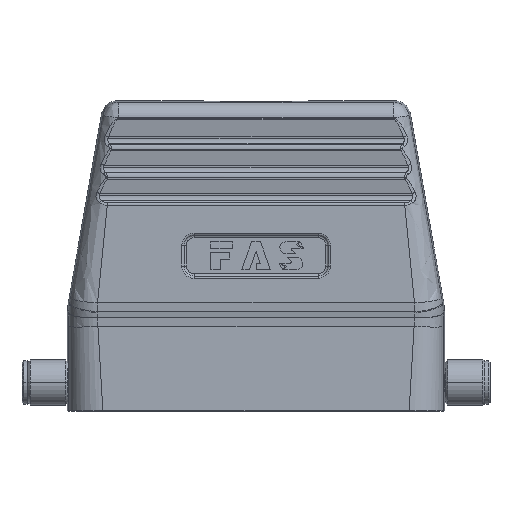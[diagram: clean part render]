
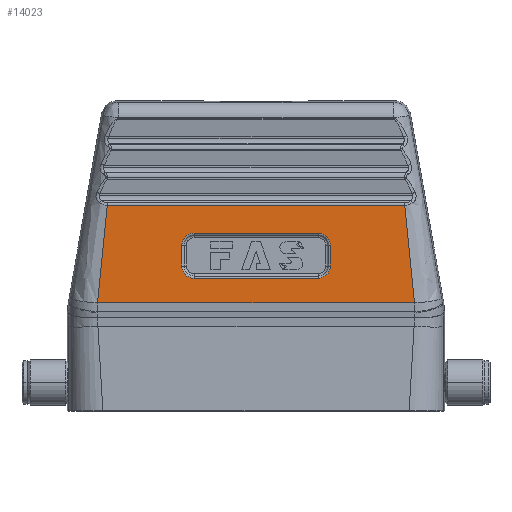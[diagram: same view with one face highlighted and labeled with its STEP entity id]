
A CAD part, top view. The second image highlights one B-rep face of the part: STEP entity #14023.
In plain terms, the highlighted planar face has unit normal (0, 0, 1) as drawn and (0, -1, 0) by its records, which use the part's own axes.
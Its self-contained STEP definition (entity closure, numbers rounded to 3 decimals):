
#78 = ORIENTED_EDGE ( 'NONE', *, *, #18352, .F. ) ;
#363 = EDGE_CURVE ( 'NONE', #14371, #16832, #20846, .T. ) ;
#858 = VERTEX_POINT ( 'NONE', #13149 ) ;
#996 = B_SPLINE_CURVE_WITH_KNOTS ( 'NONE', 3,
 ( #11770, #11935, #12096, #6486, #6565, #17710 ),
 .UNSPECIFIED., .F., .F.,
 ( 4, 2, 4 ),
 ( 0., 0.5, 1. ),
 .UNSPECIFIED. ) ;
#2199 = CARTESIAN_POINT ( 'NONE',  ( 14.366, -22., 32. ) ) ;
#2889 = CARTESIAN_POINT ( 'NONE',  ( -30.672, -22., 20.875 ) ) ;
#3559 = CARTESIAN_POINT ( 'NONE',  ( -14.366, -22., 28. ) ) ;
#3957 = CARTESIAN_POINT ( 'NONE',  ( 29.597, -22., 33.477 ) ) ;
#4145 = ORIENTED_EDGE ( 'NONE', *, *, #13574, .F. ) ;
#4329 = VECTOR ( 'NONE', #22124, 1000. ) ;
#4762 = VERTEX_POINT ( 'NONE', #2889 ) ;
#5032 =( BOUNDED_CURVE ( )  B_SPLINE_CURVE ( 3, ( #8667, #5058, #8893, #18097 ),
 .UNSPECIFIED., .F., .F. ) 
 B_SPLINE_CURVE_WITH_KNOTS ( ( 4, 4 ),
 ( 0., 1. ),
 .UNSPECIFIED. ) 
 CURVE ( )  GEOMETRIC_REPRESENTATION_ITEM ( )  RATIONAL_B_SPLINE_CURVE ( ( 1., 0.805, 0.805, 1. ) ) 
 REPRESENTATION_ITEM ( '' )  );
#5058 = CARTESIAN_POINT ( 'NONE',  ( 14.366, -22., 33.386 ) ) ;
#5383 = CARTESIAN_POINT ( 'NONE',  ( -23.5, -22., 25.634 ) ) ;
#5434 = EDGE_CURVE ( 'NONE', #4762, #14371, #996, .T. ) ;
#5544 = EDGE_CURVE ( 'NONE', #15737, #858, #17168, .T. ) ;
#5915 = EDGE_CURVE ( 'NONE', #19740, #19459, #20101, .T. ) ;
#5939 = CARTESIAN_POINT ( 'NONE',  ( -13.386, -22., 34.366 ) ) ;
#5940 = VERTEX_POINT ( 'NONE', #14888 ) ;
#6150 = DIRECTION ( 'NONE',  ( 1., 0., 0. ) ) ;
#6486 = CARTESIAN_POINT ( 'NONE',  ( -29.596, -22., 33.477 ) ) ;
#6565 = CARTESIAN_POINT ( 'NONE',  ( -29.207, -22., 36.619 ) ) ;
#6937 = VERTEX_POINT ( 'NONE', #12149 ) ;
#7325 = AXIS2_PLACEMENT_3D ( 'NONE', #7953, #11688, #17544 ) ;
#7917 = CARTESIAN_POINT ( 'NONE',  ( -14.366, -22., 28. ) ) ;
#7953 = CARTESIAN_POINT ( 'NONE',  ( -23.5, -22., 0. ) ) ;
#7999 = EDGE_CURVE ( 'NONE', #6937, #19740, #12653, .T. ) ;
#8354 = EDGE_CURVE ( 'NONE', #858, #14619, #23702, .T. ) ;
#8399 = VERTEX_POINT ( 'NONE', #23679 ) ;
#8667 = CARTESIAN_POINT ( 'NONE',  ( 14.366, -22., 32. ) ) ;
#8674 = CARTESIAN_POINT ( 'NONE',  ( 14.366, -22., 26.614 ) ) ;
#8711 = FACE_OUTER_BOUND ( 'NONE', #10230, .T. ) ;
#8762 = EDGE_LOOP ( 'NONE', ( #16811, #18497, #22088, #12193, #78, #16872, #16029, #18455 ) ) ;
#8857 = CARTESIAN_POINT ( 'NONE',  ( 28.792, -22., 39.758 ) ) ;
#8876 = DIRECTION ( 'NONE',  ( 0., 0., 1. ) ) ;
#8893 = CARTESIAN_POINT ( 'NONE',  ( 13.386, -22., 34.366 ) ) ;
#8904 =( BOUNDED_CURVE ( )  B_SPLINE_CURVE ( 3, ( #20736, #5939, #21210, #19341 ),
 .UNSPECIFIED., .F., .T. ) 
 B_SPLINE_CURVE_WITH_KNOTS ( ( 4, 4 ),
 ( 0., 1. ),
 .UNSPECIFIED. ) 
 CURVE ( )  GEOMETRIC_REPRESENTATION_ITEM ( )  RATIONAL_B_SPLINE_CURVE ( ( 1., 0.805, 0.805, 1. ) ) 
 REPRESENTATION_ITEM ( '' )  );
#9190 = CARTESIAN_POINT ( 'NONE',  ( -14.366, -22., 26.614 ) ) ;
#10230 = EDGE_LOOP ( 'NONE', ( #22858, #4145, #21817, #13707 ) ) ;
#10313 = EDGE_CURVE ( 'NONE', #14619, #8399, #5032, .T. ) ;
#10399 = VECTOR ( 'NONE', #10972, 1000. ) ;
#10474 = LINE ( 'NONE', #5383, #4329 ) ;
#10615 = CARTESIAN_POINT ( 'NONE',  ( 12., -22., 25.634 ) ) ;
#10972 = DIRECTION ( 'NONE',  ( -1., 0., 0. ) ) ;
#11064 = CARTESIAN_POINT ( 'NONE',  ( -13.386, -22., 25.634 ) ) ;
#11491 = VECTOR ( 'NONE', #8876, 1000. ) ;
#11688 = DIRECTION ( 'NONE',  ( 0., 1., 0. ) ) ;
#11770 = CARTESIAN_POINT ( 'NONE',  ( -30.672, -22., 20.875 ) ) ;
#11935 = CARTESIAN_POINT ( 'NONE',  ( -30.509, -22., 24.029 ) ) ;
#12096 = CARTESIAN_POINT ( 'NONE',  ( -30.248, -22., 27.183 ) ) ;
#12149 = CARTESIAN_POINT ( 'NONE',  ( -14.366, -22., 32. ) ) ;
#12193 = ORIENTED_EDGE ( 'NONE', *, *, #21417, .F. ) ;
#12653 = LINE ( 'NONE', #20770, #15267 ) ;
#13024 = CARTESIAN_POINT ( 'NONE',  ( -12., -22., 25.634 ) ) ;
#13149 = CARTESIAN_POINT ( 'NONE',  ( 14.366, -22., 28. ) ) ;
#13174 = CARTESIAN_POINT ( 'NONE',  ( 29.208, -22., 36.619 ) ) ;
#13574 = EDGE_CURVE ( 'NONE', #16832, #20218, #14701, .T. ) ;
#13707 = ORIENTED_EDGE ( 'NONE', *, *, #5434, .F. ) ;
#13735 = CARTESIAN_POINT ( 'NONE',  ( -264.098, -22., 20.875 ) ) ;
#14023 = ADVANCED_FACE ( 'NONE', ( #22363, #8711 ), #15334, .F. ) ;
#14371 = VERTEX_POINT ( 'NONE', #15502 ) ;
#14619 = VERTEX_POINT ( 'NONE', #2199 ) ;
#14701 = B_SPLINE_CURVE_WITH_KNOTS ( 'NONE', 3,
 ( #8857, #13174, #3957, #17008, #20727, #17086 ),
 .UNSPECIFIED., .F., .F.,
 ( 4, 2, 4 ),
 ( 0., 0.5, 1. ),
 .UNSPECIFIED. ) ;
#14888 = CARTESIAN_POINT ( 'NONE',  ( -12., -22., 34.366 ) ) ;
#14965 = CARTESIAN_POINT ( 'NONE',  ( -23.5, -22., 34.366 ) ) ;
#15267 = VECTOR ( 'NONE', #22549, 1000. ) ;
#15334 = PLANE ( 'NONE',  #7325 ) ;
#15502 = CARTESIAN_POINT ( 'NONE',  ( -28.792, -22., 39.758 ) ) ;
#15543 = EDGE_CURVE ( 'NONE', #20218, #4762, #20941, .T. ) ;
#15737 = VERTEX_POINT ( 'NONE', #19622 ) ;
#15945 = EDGE_CURVE ( 'NONE', #19459, #15737, #10474, .T. ) ;
#16029 = ORIENTED_EDGE ( 'NONE', *, *, #8354, .F. ) ;
#16513 = CARTESIAN_POINT ( 'NONE',  ( 28.792, -22., 39.758 ) ) ;
#16811 = ORIENTED_EDGE ( 'NONE', *, *, #15945, .F. ) ;
#16832 = VERTEX_POINT ( 'NONE', #16513 ) ;
#16872 = ORIENTED_EDGE ( 'NONE', *, *, #10313, .F. ) ;
#17008 = CARTESIAN_POINT ( 'NONE',  ( 30.248, -22., 27.182 ) ) ;
#17086 = CARTESIAN_POINT ( 'NONE',  ( 30.672, -22., 20.875 ) ) ;
#17168 =( BOUNDED_CURVE ( )  B_SPLINE_CURVE ( 3, ( #10615, #19704, #8674, #21666 ),
 .UNSPECIFIED., .F., .T. ) 
 B_SPLINE_CURVE_WITH_KNOTS ( ( 4, 4 ),
 ( 0., 1. ),
 .UNSPECIFIED. ) 
 CURVE ( )  GEOMETRIC_REPRESENTATION_ITEM ( )  RATIONAL_B_SPLINE_CURVE ( ( 1., 0.805, 0.805, 1. ) ) 
 REPRESENTATION_ITEM ( '' )  );
#17465 = CARTESIAN_POINT ( 'NONE',  ( -23.5, -22., 39.758 ) ) ;
#17544 = DIRECTION ( 'NONE',  ( 0., 0., 1. ) ) ;
#17710 = CARTESIAN_POINT ( 'NONE',  ( -28.792, -22., 39.758 ) ) ;
#18097 = CARTESIAN_POINT ( 'NONE',  ( 12., -22., 34.366 ) ) ;
#18352 = EDGE_CURVE ( 'NONE', #8399, #5940, #23178, .T. ) ;
#18455 = ORIENTED_EDGE ( 'NONE', *, *, #5544, .F. ) ;
#18497 = ORIENTED_EDGE ( 'NONE', *, *, #5915, .F. ) ;
#18994 = DIRECTION ( 'NONE',  ( -1., 0., 0. ) ) ;
#19341 = CARTESIAN_POINT ( 'NONE',  ( -14.366, -22., 32. ) ) ;
#19459 = VERTEX_POINT ( 'NONE', #22193 ) ;
#19622 = CARTESIAN_POINT ( 'NONE',  ( 12., -22., 25.634 ) ) ;
#19704 = CARTESIAN_POINT ( 'NONE',  ( 13.386, -22., 25.634 ) ) ;
#19740 = VERTEX_POINT ( 'NONE', #7917 ) ;
#20101 =( BOUNDED_CURVE ( )  B_SPLINE_CURVE ( 3, ( #3559, #9190, #11064, #13024 ),
 .UNSPECIFIED., .F., .T. ) 
 B_SPLINE_CURVE_WITH_KNOTS ( ( 4, 4 ),
 ( 0., 1. ),
 .UNSPECIFIED. ) 
 CURVE ( )  GEOMETRIC_REPRESENTATION_ITEM ( )  RATIONAL_B_SPLINE_CURVE ( ( 1., 0.805, 0.805, 1. ) ) 
 REPRESENTATION_ITEM ( '' )  );
#20218 = VERTEX_POINT ( 'NONE', #23482 ) ;
#20243 = VECTOR ( 'NONE', #6150, 1000. ) ;
#20727 = CARTESIAN_POINT ( 'NONE',  ( 30.51, -22., 24.029 ) ) ;
#20736 = CARTESIAN_POINT ( 'NONE',  ( -12., -22., 34.366 ) ) ;
#20770 = CARTESIAN_POINT ( 'NONE',  ( -14.366, -22., 0. ) ) ;
#20846 = LINE ( 'NONE', #17465, #20243 ) ;
#20941 = LINE ( 'NONE', #13735, #22368 ) ;
#21210 = CARTESIAN_POINT ( 'NONE',  ( -14.366, -22., 33.386 ) ) ;
#21417 = EDGE_CURVE ( 'NONE', #5940, #6937, #8904, .T. ) ;
#21666 = CARTESIAN_POINT ( 'NONE',  ( 14.366, -22., 28. ) ) ;
#21817 = ORIENTED_EDGE ( 'NONE', *, *, #363, .F. ) ;
#22088 = ORIENTED_EDGE ( 'NONE', *, *, #7999, .F. ) ;
#22124 = DIRECTION ( 'NONE',  ( 1., 0., 0. ) ) ;
#22193 = CARTESIAN_POINT ( 'NONE',  ( -12., -22., 25.634 ) ) ;
#22363 = FACE_BOUND ( 'NONE', #8762, .T. ) ;
#22368 = VECTOR ( 'NONE', #18994, 1000. ) ;
#22549 = DIRECTION ( 'NONE',  ( 0., 0., -1. ) ) ;
#22858 = ORIENTED_EDGE ( 'NONE', *, *, #15543, .F. ) ;
#23178 = LINE ( 'NONE', #14965, #10399 ) ;
#23482 = CARTESIAN_POINT ( 'NONE',  ( 30.672, -22., 20.875 ) ) ;
#23510 = CARTESIAN_POINT ( 'NONE',  ( 14.366, -22., 0. ) ) ;
#23679 = CARTESIAN_POINT ( 'NONE',  ( 12., -22., 34.366 ) ) ;
#23702 = LINE ( 'NONE', #23510, #11491 ) ;
